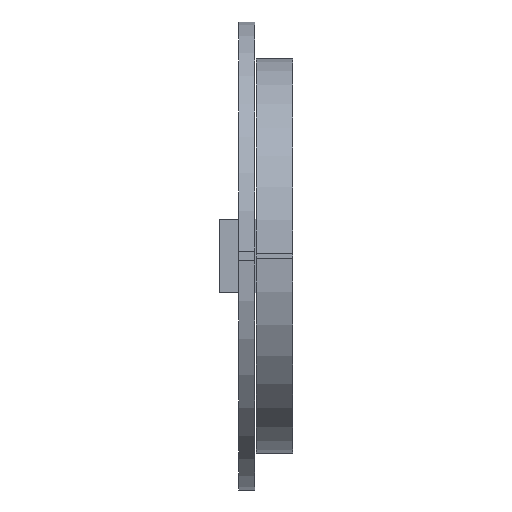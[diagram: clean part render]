
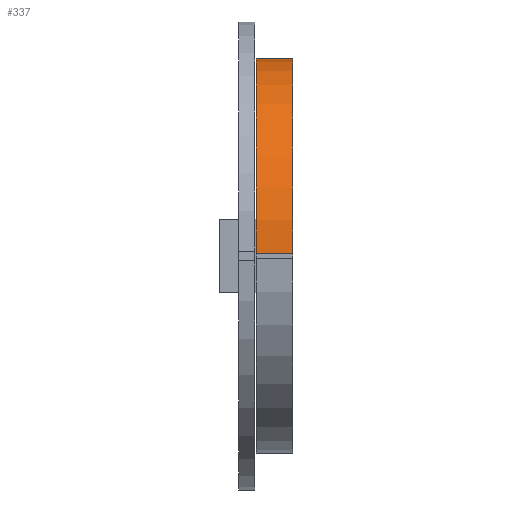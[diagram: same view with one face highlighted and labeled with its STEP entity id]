
A CAD part, front view. The second image highlights one B-rep face of the part: STEP entity #337.
In plain terms, the highlighted cylindrical face has radius 7.9 mm (diameter 15.8 mm), a partial arc.
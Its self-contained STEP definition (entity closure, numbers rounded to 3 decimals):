
#22 = VERTEX_POINT('',#23);
#23 = CARTESIAN_POINT('',(43.2,23.9,8.));
#32 = PLANE('',#33);
#33 = AXIS2_PLACEMENT_3D('',#34,#35,#36);
#34 = CARTESIAN_POINT('',(41.7,16.,8.));
#35 = DIRECTION('',(0.,0.,-1.));
#36 = DIRECTION('',(1.,0.,0.));
#44 = PLANE('',#45);
#45 = AXIS2_PLACEMENT_3D('',#46,#47,#48);
#46 = CARTESIAN_POINT('',(43.2,16.,8.));
#47 = DIRECTION('',(1.,0.,0.));
#48 = DIRECTION('',(0.,0.,-1.));
#56 = EDGE_CURVE('',#57,#22,#59,.T.);
#57 = VERTEX_POINT('',#58);
#58 = CARTESIAN_POINT('',(41.7,23.9,8.));
#59 = SURFACE_CURVE('',#60,(#64,#71),.PCURVE_S1.);
#60 = LINE('',#61,#62);
#61 = CARTESIAN_POINT('',(41.7,23.9,8.));
#62 = VECTOR('',#63,1.);
#63 = DIRECTION('',(1.,0.,0.));
#64 = PCURVE('',#32,#65);
#65 = DEFINITIONAL_REPRESENTATION('',(#66),#70);
#66 = LINE('',#67,#68);
#67 = CARTESIAN_POINT('',(0.,-7.9));
#68 = VECTOR('',#69,1.);
#69 = DIRECTION('',(1.,0.));
#70 = ( GEOMETRIC_REPRESENTATION_CONTEXT(2) 
PARAMETRIC_REPRESENTATION_CONTEXT() REPRESENTATION_CONTEXT('2D SPACE',''
  ) );
#71 = PCURVE('',#72,#77);
#72 = CYLINDRICAL_SURFACE('',#73,7.9);
#73 = AXIS2_PLACEMENT_3D('',#74,#75,#76);
#74 = CARTESIAN_POINT('',(41.7,23.9,0.1));
#75 = DIRECTION('',(1.,0.,0.));
#76 = DIRECTION('',(0.,0.,1.));
#77 = DEFINITIONAL_REPRESENTATION('',(#78),#82);
#78 = LINE('',#79,#80);
#79 = CARTESIAN_POINT('',(0.,0.));
#80 = VECTOR('',#81,1.);
#81 = DIRECTION('',(0.,1.));
#82 = ( GEOMETRIC_REPRESENTATION_CONTEXT(2) 
PARAMETRIC_REPRESENTATION_CONTEXT() REPRESENTATION_CONTEXT('2D SPACE',''
  ) );
#100 = PLANE('',#101);
#101 = AXIS2_PLACEMENT_3D('',#102,#103,#104);
#102 = CARTESIAN_POINT('',(41.7,16.,8.));
#103 = DIRECTION('',(1.,0.,0.));
#104 = DIRECTION('',(0.,0.,-1.));
#142 = EDGE_CURVE('',#22,#143,#145,.T.);
#143 = VERTEX_POINT('',#144);
#144 = CARTESIAN_POINT('',(43.2,16.,0.1));
#145 = SURFACE_CURVE('',#146,(#151,#158),.PCURVE_S1.);
#146 = CIRCLE('',#147,7.9);
#147 = AXIS2_PLACEMENT_3D('',#148,#149,#150);
#148 = CARTESIAN_POINT('',(43.2,23.9,0.1));
#149 = DIRECTION('',(1.,0.,0.));
#150 = DIRECTION('',(0.,-1.,0.));
#151 = PCURVE('',#44,#152);
#152 = DEFINITIONAL_REPRESENTATION('',(#153),#157);
#153 = CIRCLE('',#154,7.9);
#154 = AXIS2_PLACEMENT_2D('',#155,#156);
#155 = CARTESIAN_POINT('',(7.9,7.9));
#156 = DIRECTION('',(0.,-1.));
#157 = ( GEOMETRIC_REPRESENTATION_CONTEXT(2) 
PARAMETRIC_REPRESENTATION_CONTEXT() REPRESENTATION_CONTEXT('2D SPACE',''
  ) );
#158 = PCURVE('',#72,#159);
#159 = DEFINITIONAL_REPRESENTATION('',(#160),#164);
#160 = LINE('',#161,#162);
#161 = CARTESIAN_POINT('',(-4.712,1.5));
#162 = VECTOR('',#163,1.);
#163 = DIRECTION('',(1.,0.));
#164 = ( GEOMETRIC_REPRESENTATION_CONTEXT(2) 
PARAMETRIC_REPRESENTATION_CONTEXT() REPRESENTATION_CONTEXT('2D SPACE',''
  ) );
#182 = PLANE('',#183);
#183 = AXIS2_PLACEMENT_3D('',#184,#185,#186);
#184 = CARTESIAN_POINT('',(41.7,16.,8.));
#185 = DIRECTION('',(0.,1.,0.));
#186 = DIRECTION('',(1.,-0.,0.));
#337 = ADVANCED_FACE('',(#338),#72,.T.);
#338 = FACE_BOUND('',#339,.T.);
#339 = EDGE_LOOP('',(#340,#364,#385,#386));
#340 = ORIENTED_EDGE('',*,*,#341,.T.);
#341 = EDGE_CURVE('',#57,#342,#344,.T.);
#342 = VERTEX_POINT('',#343);
#343 = CARTESIAN_POINT('',(41.7,16.,0.1));
#344 = SURFACE_CURVE('',#345,(#350,#357),.PCURVE_S1.);
#345 = CIRCLE('',#346,7.9);
#346 = AXIS2_PLACEMENT_3D('',#347,#348,#349);
#347 = CARTESIAN_POINT('',(41.7,23.9,0.1));
#348 = DIRECTION('',(1.,0.,0.));
#349 = DIRECTION('',(0.,-1.,0.));
#350 = PCURVE('',#72,#351);
#351 = DEFINITIONAL_REPRESENTATION('',(#352),#356);
#352 = LINE('',#353,#354);
#353 = CARTESIAN_POINT('',(-4.712,0.));
#354 = VECTOR('',#355,1.);
#355 = DIRECTION('',(1.,0.));
#356 = ( GEOMETRIC_REPRESENTATION_CONTEXT(2) 
PARAMETRIC_REPRESENTATION_CONTEXT() REPRESENTATION_CONTEXT('2D SPACE',''
  ) );
#357 = PCURVE('',#100,#358);
#358 = DEFINITIONAL_REPRESENTATION('',(#359),#363);
#359 = CIRCLE('',#360,7.9);
#360 = AXIS2_PLACEMENT_2D('',#361,#362);
#361 = CARTESIAN_POINT('',(7.9,7.9));
#362 = DIRECTION('',(0.,-1.));
#363 = ( GEOMETRIC_REPRESENTATION_CONTEXT(2) 
PARAMETRIC_REPRESENTATION_CONTEXT() REPRESENTATION_CONTEXT('2D SPACE',''
  ) );
#364 = ORIENTED_EDGE('',*,*,#365,.T.);
#365 = EDGE_CURVE('',#342,#143,#366,.T.);
#366 = SURFACE_CURVE('',#367,(#371,#378),.PCURVE_S1.);
#367 = LINE('',#368,#369);
#368 = CARTESIAN_POINT('',(41.7,16.,0.1));
#369 = VECTOR('',#370,1.);
#370 = DIRECTION('',(1.,0.,0.));
#371 = PCURVE('',#72,#372);
#372 = DEFINITIONAL_REPRESENTATION('',(#373),#377);
#373 = LINE('',#374,#375);
#374 = CARTESIAN_POINT('',(1.571,0.));
#375 = VECTOR('',#376,1.);
#376 = DIRECTION('',(0.,1.));
#377 = ( GEOMETRIC_REPRESENTATION_CONTEXT(2) 
PARAMETRIC_REPRESENTATION_CONTEXT() REPRESENTATION_CONTEXT('2D SPACE',''
  ) );
#378 = PCURVE('',#182,#379);
#379 = DEFINITIONAL_REPRESENTATION('',(#380),#384);
#380 = LINE('',#381,#382);
#381 = CARTESIAN_POINT('',(0.,7.9));
#382 = VECTOR('',#383,1.);
#383 = DIRECTION('',(1.,0.));
#384 = ( GEOMETRIC_REPRESENTATION_CONTEXT(2) 
PARAMETRIC_REPRESENTATION_CONTEXT() REPRESENTATION_CONTEXT('2D SPACE',''
  ) );
#385 = ORIENTED_EDGE('',*,*,#142,.F.);
#386 = ORIENTED_EDGE('',*,*,#56,.F.);
